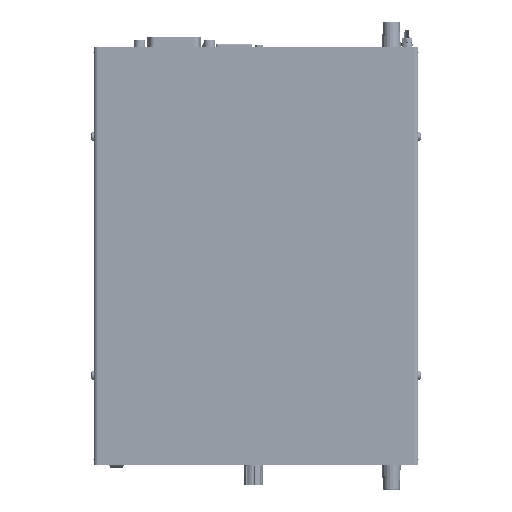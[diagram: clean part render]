
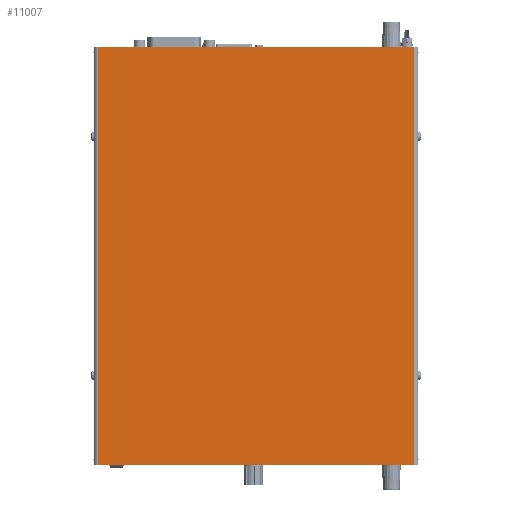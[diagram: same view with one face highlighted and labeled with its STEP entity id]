
A CAD part, top view. The second image highlights one B-rep face of the part: STEP entity #11007.
In plain terms, the highlighted planar face has unit normal (0, 0, 1).
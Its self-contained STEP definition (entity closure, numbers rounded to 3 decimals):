
#11007=ADVANCED_FACE('',(#28518),#28519,.T.);
#28518=FACE_OUTER_BOUND('',#53094,.T.);
#28519=PLANE('',#53095);
#53094=EDGE_LOOP('',(#97185,#97186,#97187,#97188));
#53095=AXIS2_PLACEMENT_3D('',#97189,#97190,#97191);
#97185=ORIENTED_EDGE('',*,*,#160437,.T.);
#97186=ORIENTED_EDGE('',*,*,#160699,.F.);
#97187=ORIENTED_EDGE('',*,*,#160700,.F.);
#97188=ORIENTED_EDGE('',*,*,#160695,.T.);
#97189=CARTESIAN_POINT('',(110.782,296.75,100.184));
#97190=DIRECTION('',(0.,0.,1.0));
#97191=DIRECTION('',(-1.0,0.,0.));
#160437=EDGE_CURVE('',#190720,#190718,#190721,.T.);
#160695=EDGE_CURVE('',#191030,#190720,#191031,.T.);
#160699=EDGE_CURVE('',#191036,#190718,#191037,.T.);
#160700=EDGE_CURVE('',#191030,#191036,#191038,.T.);
#190718=VERTEX_POINT('',#233378);
#190720=VERTEX_POINT('',#233380);
#190721=LINE('',#233381,#233382);
#191030=VERTEX_POINT('',#233837);
#191031=LINE('',#233838,#233839);
#191036=VERTEX_POINT('',#233845);
#191037=LINE('',#233846,#233847);
#191038=LINE('',#233848,#233849);
#233378=CARTESIAN_POINT('',(216.533,16.75,100.184));
#233380=CARTESIAN_POINT('',(5.032,16.75,100.184));
#233381=CARTESIAN_POINT('',(5.032,16.75,100.184));
#233382=VECTOR('',#291772,1.0);
#233837=CARTESIAN_POINT('',(5.032,296.75,100.184));
#233838=CARTESIAN_POINT('',(5.032,296.75,100.184));
#233839=VECTOR('',#291940,1.0);
#233845=CARTESIAN_POINT('',(216.533,296.75,100.184));
#233846=CARTESIAN_POINT('',(216.533,296.75,100.184));
#233847=VECTOR('',#291945,1.0);
#233848=CARTESIAN_POINT('',(5.032,296.75,100.184));
#233849=VECTOR('',#291946,1.0);
#291772=DIRECTION('',(1.0,0.0,0.0));
#291940=DIRECTION('',(0.0,-1.0,0.0));
#291945=DIRECTION('',(0.0,-1.0,0.0));
#291946=DIRECTION('',(1.0,0.0,0.0));
